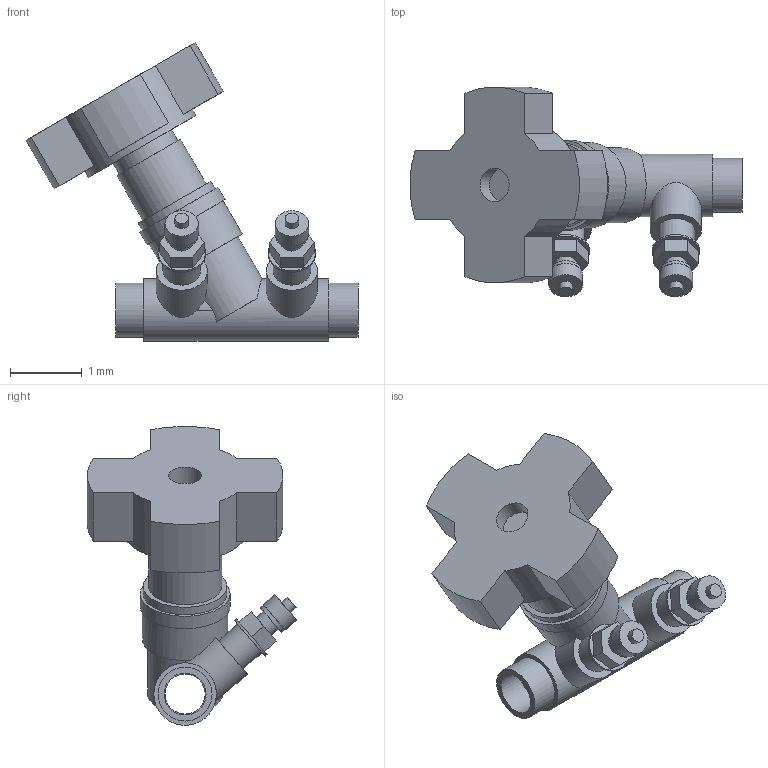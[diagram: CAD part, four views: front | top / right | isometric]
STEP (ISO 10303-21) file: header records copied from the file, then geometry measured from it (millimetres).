
FILE_DESCRIPTION(('Open CASCADE Model'),'2;1');
FILE_NAME('Open CASCADE Shape Model','2021-10-27T12:04:17',('Author'),( 'Open CASCADE'),'Open CASCADE STEP processor 7.3','Open CASCADE 7.3' ,'Unknown');
FILE_SCHEMA(('AUTOMOTIVE_DESIGN { 1 0 10303 214 1 1 1 1 }'));
Length unit declared in the file: millimetre
Products named in the file (1): Open CASCADE STEP translator 7.3 1
Bounding box: 4.64 x 2.93 x 4.18 mm (x, y, z)
Volume: 7.5 mm3; surface area: 46 mm2
Topology: 1 solids, 1 shells, 89 faces, 193 edges, 129 vertices
Faces by surface type: plane 56, cylinder 33
Full cylindrical faces by diameter (mm): 0.19 x2, 0.323 x2, 0.448 x2, 0.47 x3, 0.525 x2, 0.56 x1, 0.585 x2, 0.665 x2, 0.715 x1, 0.755 x2, 0.875 x1, 0.94 x1, 1.022 x1, 1.17 x1, 1.194 x1, 1.26 x1, 1.735 x1
Entity records: 6497 total; most frequent: CARTESIAN_POINT 2575, DIRECTION 726, ORIENTED_EDGE 386, PCURVE 386, DEFINITIONAL_REPRESENTATION 386, LINE 338, VECTOR 338, EDGE_CURVE 193
